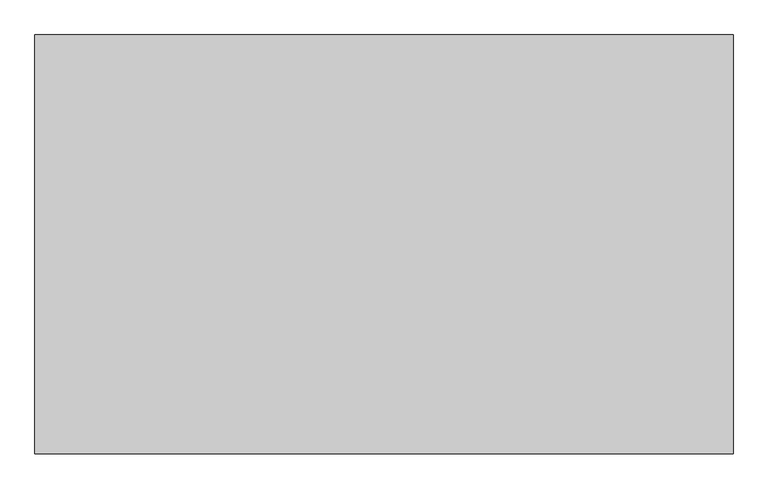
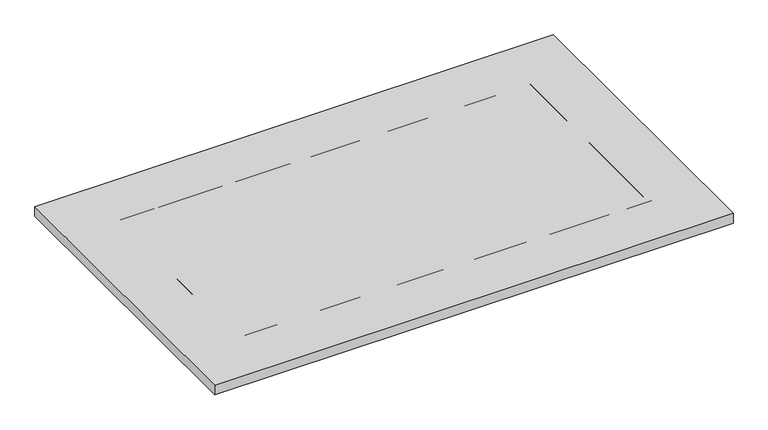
"""IFC4 building model written with IfcOpenShell, lengths in millimetres: furniture geometry, Futebol de areia : Futebol de areia."""

import ifcopenshell
import ifcopenshell.guid

model = None  # the IFC model being written
_history = None  # IfcOwnerHistory: only IFC2X3 demands one
_inside = {}  # id of a spatial element -> (the spatial element, [elements in it])
_under = {}  # id of a project, library or spatial element -> (it, [spatial elements below it])
_declared = {}  # id of a project -> (the project, [libraries it declares])
_typed = {}  # id of a type object -> (the type object, [elements of that type])
_made_of = {}  # id of a material, layer set ... -> (it, [elements and type objects made of it])


def new_model(schema):
    """Start an empty IFC model of exactly this schema.

    Asked for "IFC4X3", IfcOpenShell would pick the latest addendum, in which some entities
    have other attributes; the version numbers below select the first issue.
    IFC2X3 requires an IfcOwnerHistory on every rooted entity: one is made here for all.
    """
    global model, _history
    if schema == "IFC4X3":
        model = ifcopenshell.file(schema_version=(4, 3, 0, 0))
    else:
        model = ifcopenshell.file(schema=schema)
    _inside.clear()
    _under.clear()
    _declared.clear()
    _typed.clear()
    _made_of.clear()
    _history = None
    if model.schema == "IFC2X3":
        org = make("IfcOrganization", Name="unknown")
        user = make(
            "IfcPersonAndOrganization",
            ThePerson=make("IfcPerson", FamilyName="unknown"),
            TheOrganization=org,
        )
        app = make(
            "IfcApplication",
            ApplicationDeveloper=org,
            Version="unknown",
            ApplicationFullName="unknown",
            ApplicationIdentifier="unknown",
        )
        _history = make(
            "IfcOwnerHistory",
            OwningUser=user,
            OwningApplication=app,
            ChangeAction="ADDED",
            CreationDate=0,
        )
    return model


def make(cls, **values):
    """One entity of the class cls with the attributes given. An attribute that is None is left unset."""
    return model.create_entity(
        cls, **{name: value for name, value in values.items() if value is not None}
    )


def rooted(cls, **values):
    """An entity with a GlobalId (a new one), such as an element, a storey or a relation."""
    return make(cls, GlobalId=ifcopenshell.guid.new(), OwnerHistory=_history, **values)


def si_unit(unit_type, name, prefix=None):
    """IfcSIUnit, for example si_unit("LENGTHUNIT", "METRE", prefix="MILLI")."""
    return make("IfcSIUnit", UnitType=unit_type, Prefix=prefix, Name=name)


def assignment(units):
    """IfcUnitAssignment: the units of a project."""
    return None if units is None else make("IfcUnitAssignment", Units=units)


def point(xyz):
    """IfcCartesianPoint."""
    return None if xyz is None else make("IfcCartesianPoint", Coordinates=xyz)


def direction(xyz):
    """IfcDirection."""
    return None if xyz is None else make("IfcDirection", DirectionRatios=xyz)


def frame(location, z_axis=None, x_axis=None):
    """IfcAxis2Placement3D, a coordinate frame: its origin and axes. An axis left out is left unset."""
    return make(
        "IfcAxis2Placement3D",
        Location=point(location),
        Axis=direction(z_axis),
        RefDirection=direction(x_axis),
    )


def origin():
    """The frame at (0, 0, 0) with its axes left unset."""
    return frame((0.0, 0.0, 0.0))


def origin_with_axes():
    """The frame at (0, 0, 0) with the z axis (0, 0, 1) and the x axis (1, 0, 0) written out."""
    return frame((0.0, 0.0, 0.0), z_axis=(0.0, 0.0, 1.0), x_axis=(1.0, 0.0, 0.0))


def place(relative_to, where):
    """IfcLocalPlacement: puts the frame where relative to a parent placement (None: the world)."""
    return make(
        "IfcLocalPlacement", PlacementRelTo=relative_to, RelativePlacement=where
    )


def context(
    kind, dimensions, precision=None, world=None, true_north=None, identifier=None
):
    """IfcGeometricRepresentationContext, for example the 3D "Model" context."""
    return make(
        "IfcGeometricRepresentationContext",
        ContextIdentifier=identifier,
        ContextType=kind,
        CoordinateSpaceDimension=dimensions,
        Precision=precision,
        WorldCoordinateSystem=world,
        TrueNorth=true_north,
    )


def project(units=None, contexts=None):
    """IfcProject with its units and contexts."""
    return rooted(
        "IfcProject",
        Name="project",
        RepresentationContexts=contexts,
        UnitsInContext=assignment(units),
    )


def spatial(cls, under=None, at=None, **own):
    """A site, building, storey or space (cls), placed at a placement, below another one or the project."""
    s = rooted(cls, ObjectPlacement=at, **own)
    if under is not None:
        _under.setdefault(under.id(), (under, []))[1].append(s)
    return s


def polyline(points):
    """IfcPolyline through the points."""
    return make("IfcPolyline", Points=[point(p) for p in points])


def outline(outer, holes=None, kind="AREA"):
    """IfcArbitraryClosedProfileDef: a profile drawn as a closed curve; with holes, ...WithVoids."""
    if holes is None:
        return make("IfcArbitraryClosedProfileDef", ProfileType=kind, OuterCurve=outer)
    return make(
        "IfcArbitraryProfileDefWithVoids",
        ProfileType=kind,
        OuterCurve=outer,
        InnerCurves=holes,
    )


def extrude(swept, where, along, depth):
    """IfcExtrudedAreaSolid: the profile swept, set in the frame where, extruded along a direction by depth."""
    return make(
        "IfcExtrudedAreaSolid",
        SweptArea=swept,
        Position=where,
        ExtrudedDirection=direction(along),
        Depth=depth,
    )


def shape(context_of_items, identifier, shape_type, items):
    """IfcShapeRepresentation: the items that make up one representation, for example the "Body"."""
    return make(
        "IfcShapeRepresentation",
        ContextOfItems=context_of_items,
        RepresentationIdentifier=identifier,
        RepresentationType=shape_type,
        Items=items,
    )


def source(mapping_origin, context_of_items, identifier, shape_type, items):
    """IfcRepresentationMap: a shape defined once, which mapped items show again and again."""
    return make(
        "IfcRepresentationMap",
        MappingOrigin=mapping_origin,
        MappedRepresentation=shape(context_of_items, identifier, shape_type, items),
    )


def transform(
    local_origin,
    x_axis=None,
    y_axis=None,
    z_axis=None,
    scale=None,
    scale2=None,
    scale3=None,
    uniform=True,
):
    """IfcCartesianTransformationOperator3D, or its non-uniform kind. x_axis, y_axis, z_axis: its Axis1, 2, 3."""
    if uniform:
        return make(
            "IfcCartesianTransformationOperator3D",
            Axis1=direction(x_axis),
            Axis2=direction(y_axis),
            LocalOrigin=point(local_origin),
            Scale=scale,
            Axis3=direction(z_axis),
        )
    return make(
        "IfcCartesianTransformationOperator3DnonUniform",
        Axis1=direction(x_axis),
        Axis2=direction(y_axis),
        LocalOrigin=point(local_origin),
        Scale=scale,
        Axis3=direction(z_axis),
        Scale2=scale2,
        Scale3=scale3,
    )


def mapped(mapping_source, mapping_target):
    """IfcMappedItem: shows the shape of a source again, moved by a transform."""
    return make(
        "IfcMappedItem", MappingSource=mapping_source, MappingTarget=mapping_target
    )


def made_of(thing, what):
    """Note that an element or type object is made of a material, layer set ...; save() writes the relation."""
    if what is not None:
        _made_of.setdefault(what.id(), (what, []))[1].append(thing)
    return thing


def element(
    cls,
    number,
    at=None,
    inside=None,
    cuts=None,
    type_object=None,
    material=None,
    context=None,
    identifier="Body",
    shape_type=None,
    held_by="IfcProductDefinitionShape",
    body=None,
    shapes=None,
    **own,
):
    """One element of the class cls, such as IfcWall. Its Tag is "e" and its number.

    at: its placement. inside: the storey or other place that contains it. cuts: it is an
    opening in that element (IfcRelVoidsElement). A single representation is given by context,
    identifier, shape_type and body (its items); several are given by shapes. held_by: the class
    of the entity that holds the representations. save() writes the other relations.
    """
    e = rooted(cls, Tag="e%d" % number, ObjectPlacement=at, **own)
    if body is not None:
        shapes = [shape(context, identifier, shape_type, body)]
    if shapes is not None:
        e.Representation = make(held_by, Representations=shapes)
    if inside is not None:
        _inside.setdefault(inside.id(), (inside, []))[1].append(e)
    if cuts is not None:
        rooted(
            "IfcRelVoidsElement", RelatingBuildingElement=cuts, RelatedOpeningElement=e
        )
    if type_object is not None:
        _typed.setdefault(type_object.id(), (type_object, []))[1].append(e)
    return made_of(e, material)


def aggregate(whole, parts):
    """IfcRelAggregates: a whole, such as a stair, and the parts it consists of."""
    return rooted("IfcRelAggregates", RelatingObject=whole, RelatedObjects=parts)


def save(model, path):
    """Write the relations noted so far, then the file.

    IfcRelAggregates (storeys below a building ...), IfcRelContainedInSpatialStructure (elements
    in a storey), IfcRelDefinesByType, IfcRelAssociatesMaterial and IfcRelDeclares: one each for
    every whole, place, type object, material and project.
    """
    for whole, parts in _under.values():
        aggregate(whole, parts)
    for where, things in _inside.values():
        rooted(
            "IfcRelContainedInSpatialStructure",
            RelatedElements=things,
            RelatingStructure=where,
        )
    for kind, things in _typed.values():
        rooted("IfcRelDefinesByType", RelatedObjects=things, RelatingType=kind)
    for what, things in _made_of.values():
        rooted("IfcRelAssociatesMaterial", RelatedObjects=things, RelatingMaterial=what)
    for by, libraries in _declared.values():
        rooted("IfcRelDeclares", RelatingContext=by, RelatedDefinitions=libraries)
    model.write(path)


def furniture_4d10064f(model_context):
    return source(origin(), model_context, "Body", "SweptSolid", [
        extrude(outline(polyline([(-40117.2463175, 110732.725876), (-40117.2463175, 98732.725876), (-60117.2463175, 98732.725876), (-60117.2463175, 110732.725876), (-40117.2463175, 110732.725876)])), origin_with_axes(), (0.0, 0.0, 1.0), 400.0),
        extrude(outline(polyline([(-42117.2463175, 108732.725876), (-42117.2463175, 100732.725876), (-58117.3437862, 100732.725876), (-58117.3437862, 108732.725876), (-42117.2463175, 108732.725876)]), holes=[polyline([(-42232.4735582, 108632.725876), (-58017.3437862, 108632.725876), (-58017.3437862, 100832.725876), (-42232.4735582, 100832.725876), (-42232.4735582, 108632.725876)])]), origin_with_axes(), (0.0, 0.0, 1.0), 400.0),
    ])


if __name__ == "__main__":
    model = new_model("IFC4")
    model_context = context("Model", 3, world=origin())
    ifc_project = project(units=[si_unit("LENGTHUNIT", "METRE", prefix="MILLI")], contexts=[model_context])
    site = spatial("IfcSite", under=ifc_project)
    building = spatial("IfcBuilding", under=site)
    placement = place(None, origin())
    furniture_shape = furniture_4d10064f(model_context)
    element("IfcFurniture", 1, ObjectType="Futebol de areia : Futebol de areia", at=placement, inside=building, context=model_context, shape_type="MappedRepresentation", body=[
        mapped(furniture_shape, transform((0.0, 0.0, 0.0), x_axis=(1.0, 0.0, 0.0), y_axis=(0.0, 1.0, 0.0), z_axis=(0.0, 0.0, 1.0))),
    ])
    save(model, "model.ifc")
